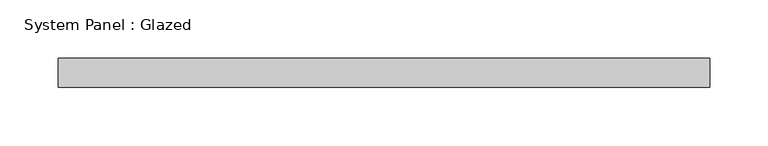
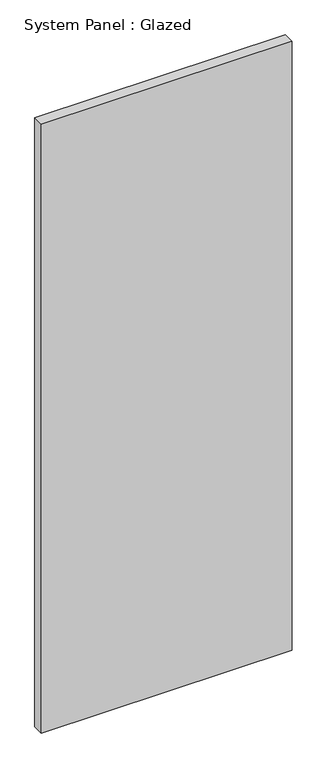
"""IFC4 building model written with IfcOpenShell, lengths in millimetres: plate geometry, System Panel : Glazed."""

import ifcopenshell
import ifcopenshell.guid

model = None  # the IFC model being written
_history = None  # IfcOwnerHistory: only IFC2X3 demands one
_inside = {}  # id of a spatial element -> (the spatial element, [elements in it])
_under = {}  # id of a project, library or spatial element -> (it, [spatial elements below it])
_declared = {}  # id of a project -> (the project, [libraries it declares])
_typed = {}  # id of a type object -> (the type object, [elements of that type])
_made_of = {}  # id of a material, layer set ... -> (it, [elements and type objects made of it])


def new_model(schema):
    """Start an empty IFC model of exactly this schema.

    Asked for "IFC4X3", IfcOpenShell would pick the latest addendum, in which some entities
    have other attributes; the version numbers below select the first issue.
    IFC2X3 requires an IfcOwnerHistory on every rooted entity: one is made here for all.
    """
    global model, _history
    if schema == "IFC4X3":
        model = ifcopenshell.file(schema_version=(4, 3, 0, 0))
    else:
        model = ifcopenshell.file(schema=schema)
    _inside.clear()
    _under.clear()
    _declared.clear()
    _typed.clear()
    _made_of.clear()
    _history = None
    if model.schema == "IFC2X3":
        org = make("IfcOrganization", Name="unknown")
        user = make(
            "IfcPersonAndOrganization",
            ThePerson=make("IfcPerson", FamilyName="unknown"),
            TheOrganization=org,
        )
        app = make(
            "IfcApplication",
            ApplicationDeveloper=org,
            Version="unknown",
            ApplicationFullName="unknown",
            ApplicationIdentifier="unknown",
        )
        _history = make(
            "IfcOwnerHistory",
            OwningUser=user,
            OwningApplication=app,
            ChangeAction="ADDED",
            CreationDate=0,
        )
    return model


def make(cls, **values):
    """One entity of the class cls with the attributes given. An attribute that is None is left unset."""
    return model.create_entity(
        cls, **{name: value for name, value in values.items() if value is not None}
    )


def rooted(cls, **values):
    """An entity with a GlobalId (a new one), such as an element, a storey or a relation."""
    return make(cls, GlobalId=ifcopenshell.guid.new(), OwnerHistory=_history, **values)


def si_unit(unit_type, name, prefix=None):
    """IfcSIUnit, for example si_unit("LENGTHUNIT", "METRE", prefix="MILLI")."""
    return make("IfcSIUnit", UnitType=unit_type, Prefix=prefix, Name=name)


def assignment(units):
    """IfcUnitAssignment: the units of a project."""
    return None if units is None else make("IfcUnitAssignment", Units=units)


def point(xyz):
    """IfcCartesianPoint."""
    return None if xyz is None else make("IfcCartesianPoint", Coordinates=xyz)


def direction(xyz):
    """IfcDirection."""
    return None if xyz is None else make("IfcDirection", DirectionRatios=xyz)


def frame(location, z_axis=None, x_axis=None):
    """IfcAxis2Placement3D, a coordinate frame: its origin and axes. An axis left out is left unset."""
    return make(
        "IfcAxis2Placement3D",
        Location=point(location),
        Axis=direction(z_axis),
        RefDirection=direction(x_axis),
    )


def origin():
    """The frame at (0, 0, 0) with its axes left unset."""
    return frame((0.0, 0.0, 0.0))


def origin_with_axes():
    """The frame at (0, 0, 0) with the z axis (0, 0, 1) and the x axis (1, 0, 0) written out."""
    return frame((0.0, 0.0, 0.0), z_axis=(0.0, 0.0, 1.0), x_axis=(1.0, 0.0, 0.0))


def place(relative_to, where):
    """IfcLocalPlacement: puts the frame where relative to a parent placement (None: the world)."""
    return make(
        "IfcLocalPlacement", PlacementRelTo=relative_to, RelativePlacement=where
    )


def context(
    kind, dimensions, precision=None, world=None, true_north=None, identifier=None
):
    """IfcGeometricRepresentationContext, for example the 3D "Model" context."""
    return make(
        "IfcGeometricRepresentationContext",
        ContextIdentifier=identifier,
        ContextType=kind,
        CoordinateSpaceDimension=dimensions,
        Precision=precision,
        WorldCoordinateSystem=world,
        TrueNorth=true_north,
    )


def project(units=None, contexts=None):
    """IfcProject with its units and contexts."""
    return rooted(
        "IfcProject",
        Name="project",
        RepresentationContexts=contexts,
        UnitsInContext=assignment(units),
    )


def spatial(cls, under=None, at=None, **own):
    """A site, building, storey or space (cls), placed at a placement, below another one or the project."""
    s = rooted(cls, ObjectPlacement=at, **own)
    if under is not None:
        _under.setdefault(under.id(), (under, []))[1].append(s)
    return s


def polyline(points):
    """IfcPolyline through the points."""
    return make("IfcPolyline", Points=[point(p) for p in points])


def outline(outer, holes=None, kind="AREA"):
    """IfcArbitraryClosedProfileDef: a profile drawn as a closed curve; with holes, ...WithVoids."""
    if holes is None:
        return make("IfcArbitraryClosedProfileDef", ProfileType=kind, OuterCurve=outer)
    return make(
        "IfcArbitraryProfileDefWithVoids",
        ProfileType=kind,
        OuterCurve=outer,
        InnerCurves=holes,
    )


def extrude(swept, where, along, depth):
    """IfcExtrudedAreaSolid: the profile swept, set in the frame where, extruded along a direction by depth."""
    return make(
        "IfcExtrudedAreaSolid",
        SweptArea=swept,
        Position=where,
        ExtrudedDirection=direction(along),
        Depth=depth,
    )


def shape(context_of_items, identifier, shape_type, items):
    """IfcShapeRepresentation: the items that make up one representation, for example the "Body"."""
    return make(
        "IfcShapeRepresentation",
        ContextOfItems=context_of_items,
        RepresentationIdentifier=identifier,
        RepresentationType=shape_type,
        Items=items,
    )


def source(mapping_origin, context_of_items, identifier, shape_type, items):
    """IfcRepresentationMap: a shape defined once, which mapped items show again and again."""
    return make(
        "IfcRepresentationMap",
        MappingOrigin=mapping_origin,
        MappedRepresentation=shape(context_of_items, identifier, shape_type, items),
    )


def transform(
    local_origin,
    x_axis=None,
    y_axis=None,
    z_axis=None,
    scale=None,
    scale2=None,
    scale3=None,
    uniform=True,
):
    """IfcCartesianTransformationOperator3D, or its non-uniform kind. x_axis, y_axis, z_axis: its Axis1, 2, 3."""
    if uniform:
        return make(
            "IfcCartesianTransformationOperator3D",
            Axis1=direction(x_axis),
            Axis2=direction(y_axis),
            LocalOrigin=point(local_origin),
            Scale=scale,
            Axis3=direction(z_axis),
        )
    return make(
        "IfcCartesianTransformationOperator3DnonUniform",
        Axis1=direction(x_axis),
        Axis2=direction(y_axis),
        LocalOrigin=point(local_origin),
        Scale=scale,
        Axis3=direction(z_axis),
        Scale2=scale2,
        Scale3=scale3,
    )


def mapped(mapping_source, mapping_target):
    """IfcMappedItem: shows the shape of a source again, moved by a transform."""
    return make(
        "IfcMappedItem", MappingSource=mapping_source, MappingTarget=mapping_target
    )


def made_of(thing, what):
    """Note that an element or type object is made of a material, layer set ...; save() writes the relation."""
    if what is not None:
        _made_of.setdefault(what.id(), (what, []))[1].append(thing)
    return thing


def element(
    cls,
    number,
    at=None,
    inside=None,
    cuts=None,
    type_object=None,
    material=None,
    context=None,
    identifier="Body",
    shape_type=None,
    held_by="IfcProductDefinitionShape",
    body=None,
    shapes=None,
    **own,
):
    """One element of the class cls, such as IfcWall. Its Tag is "e" and its number.

    at: its placement. inside: the storey or other place that contains it. cuts: it is an
    opening in that element (IfcRelVoidsElement). A single representation is given by context,
    identifier, shape_type and body (its items); several are given by shapes. held_by: the class
    of the entity that holds the representations. save() writes the other relations.
    """
    e = rooted(cls, Tag="e%d" % number, ObjectPlacement=at, **own)
    if body is not None:
        shapes = [shape(context, identifier, shape_type, body)]
    if shapes is not None:
        e.Representation = make(held_by, Representations=shapes)
    if inside is not None:
        _inside.setdefault(inside.id(), (inside, []))[1].append(e)
    if cuts is not None:
        rooted(
            "IfcRelVoidsElement", RelatingBuildingElement=cuts, RelatedOpeningElement=e
        )
    if type_object is not None:
        _typed.setdefault(type_object.id(), (type_object, []))[1].append(e)
    return made_of(e, material)


def aggregate(whole, parts):
    """IfcRelAggregates: a whole, such as a stair, and the parts it consists of."""
    return rooted("IfcRelAggregates", RelatingObject=whole, RelatedObjects=parts)


def save(model, path):
    """Write the relations noted so far, then the file.

    IfcRelAggregates (storeys below a building ...), IfcRelContainedInSpatialStructure (elements
    in a storey), IfcRelDefinesByType, IfcRelAssociatesMaterial and IfcRelDeclares: one each for
    every whole, place, type object, material and project.
    """
    for whole, parts in _under.values():
        aggregate(whole, parts)
    for where, things in _inside.values():
        rooted(
            "IfcRelContainedInSpatialStructure",
            RelatedElements=things,
            RelatingStructure=where,
        )
    for kind, things in _typed.values():
        rooted("IfcRelDefinesByType", RelatedObjects=things, RelatingType=kind)
    for what, things in _made_of.values():
        rooted("IfcRelAssociatesMaterial", RelatedObjects=things, RelatingMaterial=what)
    for by, libraries in _declared.values():
        rooted("IfcRelDeclares", RelatingContext=by, RelatedDefinitions=libraries)
    model.write(path)


def system_panel_glazed_3f87003b(model_context):
    return source(origin(), model_context, "Body", "SweptSolid", [
        extrude(outline(polyline([(279.8, 24.5), (-279.8, 24.5), (-279.8, 49.5), (279.8, 49.5), (279.8, 24.5)])), origin_with_axes(), (0.0, 0.0, 1.0), 1435.6),
    ])


if __name__ == "__main__":
    model = new_model("IFC4")
    model_context = context("Model", 3, world=origin())
    ifc_project = project(units=[si_unit("LENGTHUNIT", "METRE", prefix="MILLI")], contexts=[model_context])
    site = spatial("IfcSite", under=ifc_project)
    building = spatial("IfcBuilding", under=site)
    placement = place(None, origin())
    system_panel_glazed_shape = system_panel_glazed_3f87003b(model_context)
    element("IfcPlate", 1, ObjectType="System Panel : Glazed", at=placement, inside=building, context=model_context, shape_type="MappedRepresentation", body=[
        mapped(system_panel_glazed_shape, transform((0.0, 0.0, 0.0), x_axis=(1.0, 0.0, 0.0), y_axis=(0.0, 1.0, 0.0), z_axis=(0.0, 0.0, 1.0))),
    ])
    save(model, "model.ifc")
